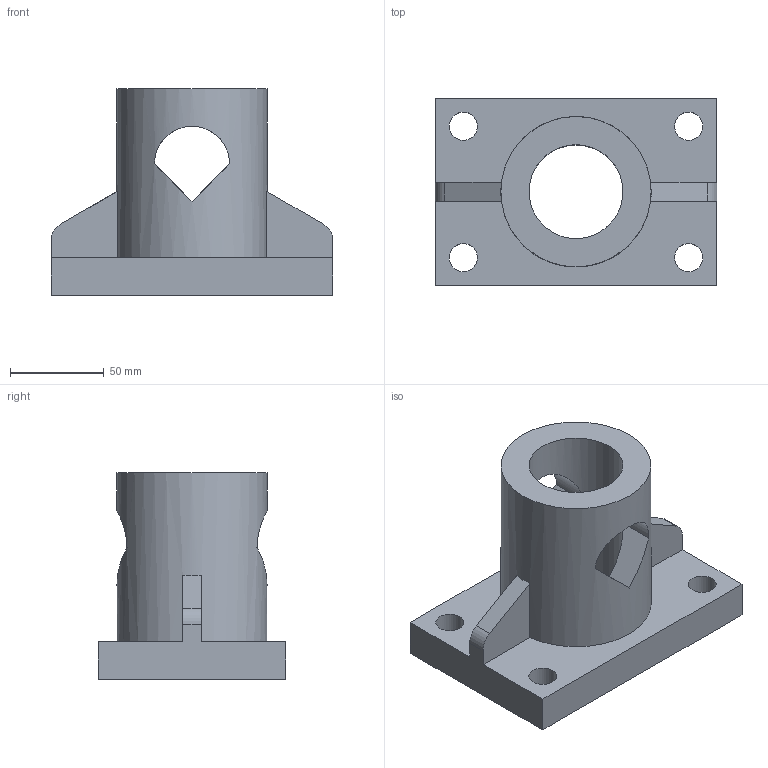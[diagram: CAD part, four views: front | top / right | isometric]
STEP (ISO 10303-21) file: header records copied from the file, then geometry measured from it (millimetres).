
FILE_DESCRIPTION(('TFLEX Exchange Step'),'2;1');
FILE_NAME('X2\041A043E0440043F04430441\X0\ вар 7.stp', '2025-06-24T11:14:25+03:00',('alymo'),('Unknown organisation'),'TFLEX Exchange 2023.0','T-FLEX CAD','Unknown authorisation');
FILE_SCHEMA( ('AUTOMOTIVE_DESIGN { 1 0 10303 214 1 1 1 1 }') );
Length unit declared in the file: millimetre
Products named in the file (1): Nodes
Bounding box: 150 x 100 x 110 mm (x, y, z)
Volume: 507352.7 mm3; surface area: 81161.7 mm2
Topology: 1 solids, 1 shells, 28 faces, 102 edges, 76 vertices
Faces by surface type: plane 18, cylinder 10
Full cylindrical faces by diameter (mm): 15 x4, 50 x1, 80 x1
Entity records: 1568 total; most frequent: CARTESIAN_POINT 597, ORIENTED_EDGE 204, DIRECTION 192, EDGE_CURVE 102, VERTEX_POINT 76, AXIS2_PLACEMENT_3D 65, VECTOR 62, LINE 62
